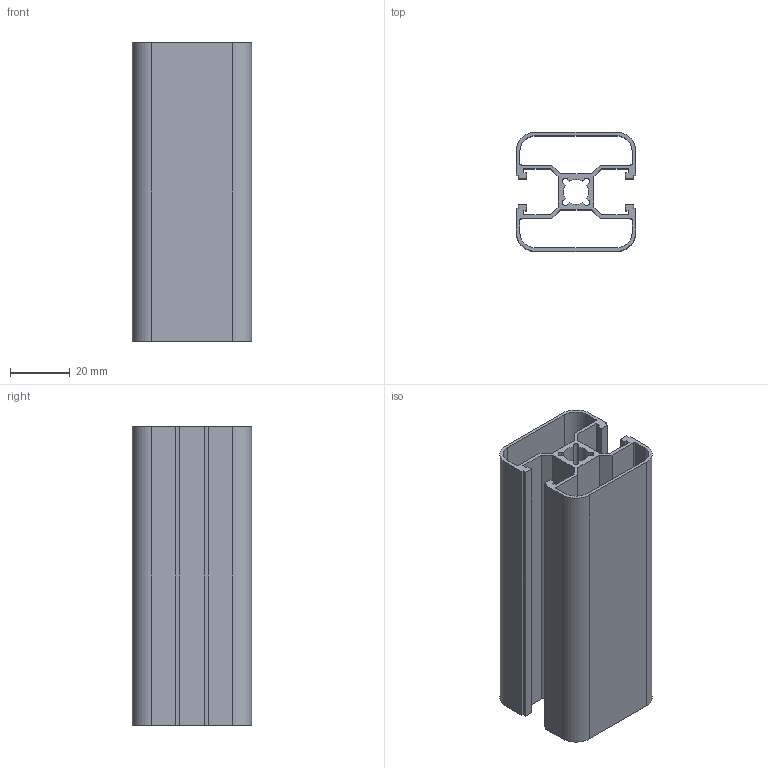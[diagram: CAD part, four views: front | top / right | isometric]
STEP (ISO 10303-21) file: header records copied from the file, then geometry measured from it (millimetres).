
FILE_DESCRIPTION(/* description */ (''),/* implementation_level */ '2;1');
FILE_NAME(/* name */ 'C:\Users\Owner\Documents\硯聰\Inv材料庫-3D新型錄-2019整理\01.AM-鋁擠\8系列\AM8-P4040F2H_100L.stp',/* time_stamp */ '2019-03-13T09:09:31+08:00',/* author */ ('Owner'),/* organization */ (''),/* preprocessor_version */ 'ST-DEVELOPER v16.1',/* originating_system */ 'Autodesk Inventor 2016',/* authorisation */ '');
FILE_SCHEMA (('AUTOMOTIVE_DESIGN { 1 0 10303 214 3 1 1 }'));
Length unit declared in the file: millimetre
Products named in the file (1): AM8-P4040F2H_100L
Bounding box: 40 x 40 x 100 mm (x, y, z)
Volume: 31830.7 mm3; surface area: 46315.9 mm2
Topology: 1 solids, 1 shells, 86 faces, 252 edges, 168 vertices
Faces by surface type: plane 66, cylinder 20
Entity records: 2872 total; most frequent: CARTESIAN_POINT 507, ORIENTED_EDGE 504, DIRECTION 466, EDGE_CURVE 252, LINE 212, VECTOR 212, VERTEX_POINT 168, AXIS2_PLACEMENT_3D 127
